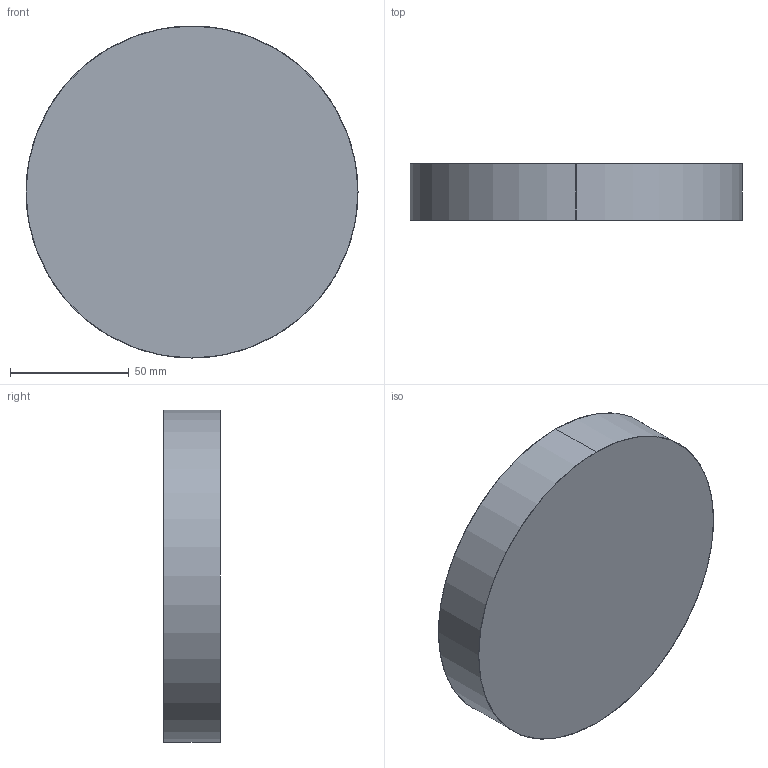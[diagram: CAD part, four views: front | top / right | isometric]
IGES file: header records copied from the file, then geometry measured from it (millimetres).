
Start section: SolidWorks IGES file using analytic representation for surfaces
Global section: file name: D:\3DS EMPRESA\KORE-P34352-3D\KORE-P34352-3D.IGS; native system: SolidWorks 2019; preprocessor: SolidWorks 2019; author: Carlos Corella; date: 210721.103707; units: millimetre
Bounding box: 140 x 24 x 140 mm (x, y, z)
Surface area: 41739.2 mm2 (no closed solid volume)
Topology: 0 solids, 0 shells, 7 faces, 272 edges, 272 vertices
Faces by surface type: revolution 4, bspline 3
